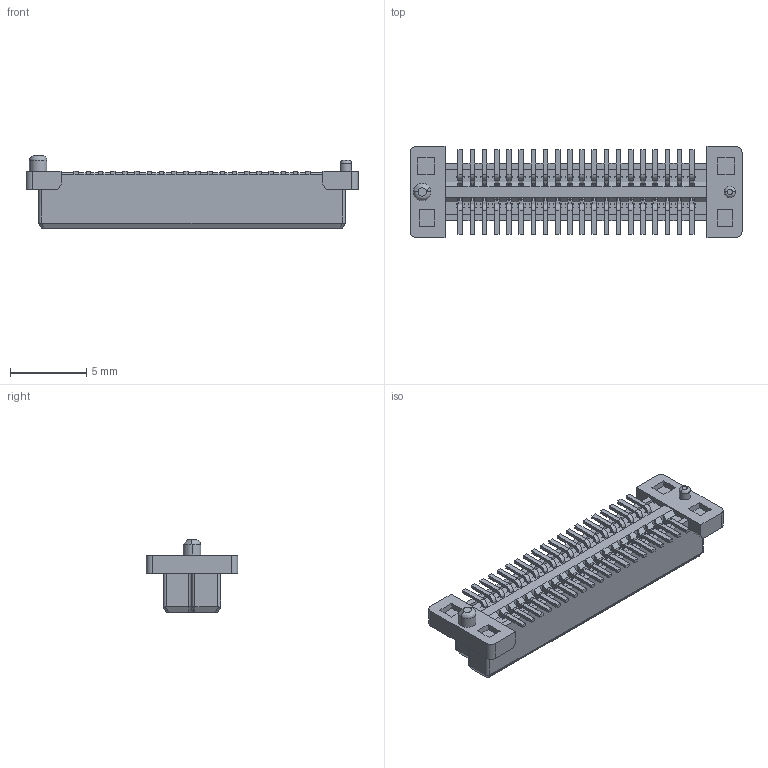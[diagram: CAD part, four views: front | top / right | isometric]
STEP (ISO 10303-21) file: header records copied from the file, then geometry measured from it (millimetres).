
FILE_DESCRIPTION (( 'STEP AP203' ), '1' );
FILE_NAME ('GT-B0805FSV37-40S1101.STEP', '2026-01-20T11:07:03', ( '' ), ( '' ), 'SwSTEP 2.0', 'SolidWorks 2020', '' );
FILE_SCHEMA (( 'CONFIG_CONTROL_DESIGN' ));
Products named in the file (1): GT-B0805FSV37-40S1101
Bounding box: 21.8 x 6 x 4.75 mm (x, y, z)
Volume: 218.1 mm3; surface area: 852.5 mm2
Topology: 1 solids, 1 shells, 3534 faces, 10421 edges, 6632 vertices
Faces by surface type: plane 2113, cylinder 1022, torus 320, bspline 75, cone 4
Entity records: 121372 total; most frequent: CARTESIAN_POINT 26491, ORIENTED_EDGE 20830, DIRECTION 19027, EDGE_CURVE 10415, LINE 7395, VECTOR 7395, VERTEX_POINT 6632, AXIS2_PLACEMENT_3D 5816
